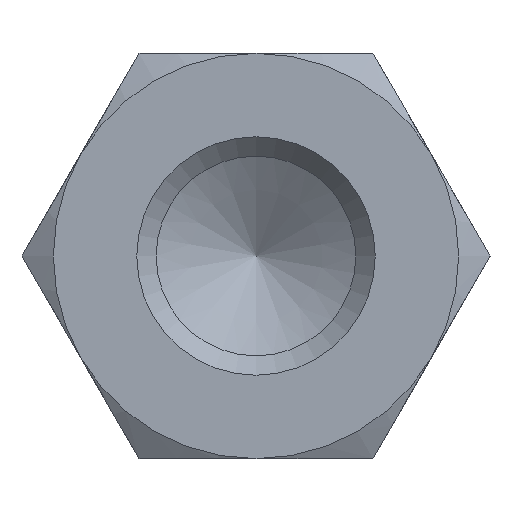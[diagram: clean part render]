
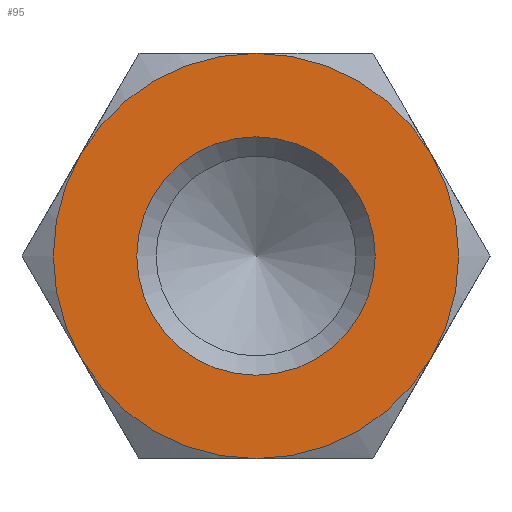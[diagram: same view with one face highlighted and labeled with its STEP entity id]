
A CAD part, left-side view. The second image highlights one B-rep face of the part: STEP entity #95.
In plain terms, the highlighted planar face has unit normal (-1, 0, 0).
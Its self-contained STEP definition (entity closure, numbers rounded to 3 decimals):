
#95 = ADVANCED_FACE( '', ( #147, #148 ), #149, .F. );
#147 = FACE_OUTER_BOUND( '', #206, .T. );
#148 = FACE_BOUND( '', #207, .T. );
#149 = PLANE( '', #208 );
#206 = EDGE_LOOP( '', ( #356, #357, #358, #359, #360, #361 ) );
#207 = EDGE_LOOP( '', ( #362 ) );
#208 = AXIS2_PLACEMENT_3D( '', #363, #364, #365 );
#356 = ORIENTED_EDGE( '', *, *, #440, .F. );
#357 = ORIENTED_EDGE( '', *, *, #425, .F. );
#358 = ORIENTED_EDGE( '', *, *, #441, .F. );
#359 = ORIENTED_EDGE( '', *, *, #437, .F. );
#360 = ORIENTED_EDGE( '', *, *, #442, .F. );
#361 = ORIENTED_EDGE( '', *, *, #443, .F. );
#362 = ORIENTED_EDGE( '', *, *, #439, .T. );
#363 = CARTESIAN_POINT( '', ( -50., 0., 0. ) );
#364 = DIRECTION( '', ( 1., 0., 0. ) );
#365 = DIRECTION( '', ( 0., 0., -1. ) );
#425 = EDGE_CURVE( '', #495, #493, #497, .T. );
#437 = EDGE_CURVE( '', #447, #506, #513, .T. );
#439 = EDGE_CURVE( '', #516, #516, #517, .T. );
#440 = EDGE_CURVE( '', #493, #486, #518, .T. );
#441 = EDGE_CURVE( '', #506, #495, #519, .T. );
#442 = EDGE_CURVE( '', #481, #447, #520, .T. );
#443 = EDGE_CURVE( '', #486, #481, #521, .T. );
#447 = VERTEX_POINT( '', #525 );
#481 = VERTEX_POINT( '', #607 );
#486 = VERTEX_POINT( '', #623 );
#493 = VERTEX_POINT( '', #650 );
#495 = VERTEX_POINT( '', #657 );
#497 = CIRCLE( '', #664, 8.5 );
#506 = VERTEX_POINT( '', #690 );
#513 = CIRCLE( '', #733, 8.5 );
#516 = VERTEX_POINT( '', #736 );
#517 = CIRCLE( '', #737, 5. );
#518 = CIRCLE( '', #738, 8.5 );
#519 = CIRCLE( '', #739, 8.5 );
#520 = CIRCLE( '', #740, 8.5 );
#521 = CIRCLE( '', #741, 8.5 );
#525 = CARTESIAN_POINT( '', ( -50., -7.361, 4.25 ) );
#607 = CARTESIAN_POINT( '', ( -50., 0., 8.5 ) );
#623 = CARTESIAN_POINT( '', ( -50., 7.361, 4.25 ) );
#650 = CARTESIAN_POINT( '', ( -50., 7.361, -4.25 ) );
#657 = CARTESIAN_POINT( '', ( -50., 0., -8.5 ) );
#664 = AXIS2_PLACEMENT_3D( '', #776, #777, #778 );
#690 = CARTESIAN_POINT( '', ( -50., -7.361, -4.25 ) );
#733 = AXIS2_PLACEMENT_3D( '', #781, #782, #783 );
#736 = CARTESIAN_POINT( '', ( -50., 0., -5. ) );
#737 = AXIS2_PLACEMENT_3D( '', #787, #788, #789 );
#738 = AXIS2_PLACEMENT_3D( '', #790, #791, #792 );
#739 = AXIS2_PLACEMENT_3D( '', #793, #794, #795 );
#740 = AXIS2_PLACEMENT_3D( '', #796, #797, #798 );
#741 = AXIS2_PLACEMENT_3D( '', #799, #800, #801 );
#776 = CARTESIAN_POINT( '', ( -50., 0., 0. ) );
#777 = DIRECTION( '', ( 1., 0., 0. ) );
#778 = DIRECTION( '', ( 0., 0., -1. ) );
#781 = CARTESIAN_POINT( '', ( -50., 0., 0. ) );
#782 = DIRECTION( '', ( 1., 0., 0. ) );
#783 = DIRECTION( '', ( 0., 0., -1. ) );
#787 = CARTESIAN_POINT( '', ( -50., 0., 0. ) );
#788 = DIRECTION( '', ( 1., 0., 0. ) );
#789 = DIRECTION( '', ( 0., 0., -1. ) );
#790 = CARTESIAN_POINT( '', ( -50., 0., 0. ) );
#791 = DIRECTION( '', ( 1., 0., 0. ) );
#792 = DIRECTION( '', ( 0., 0., -1. ) );
#793 = CARTESIAN_POINT( '', ( -50., 0., 0. ) );
#794 = DIRECTION( '', ( 1., 0., 0. ) );
#795 = DIRECTION( '', ( 0., 0., -1. ) );
#796 = CARTESIAN_POINT( '', ( -50., 0., 0. ) );
#797 = DIRECTION( '', ( 1., 0., 0. ) );
#798 = DIRECTION( '', ( 0., 0., -1. ) );
#799 = CARTESIAN_POINT( '', ( -50., 0., 0. ) );
#800 = DIRECTION( '', ( 1., 0., 0. ) );
#801 = DIRECTION( '', ( 0., 0., -1. ) );
